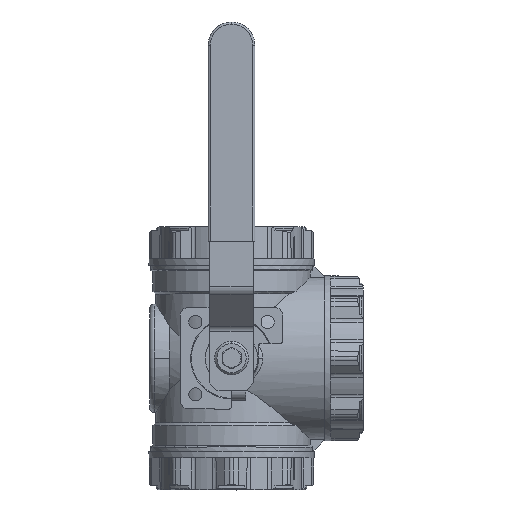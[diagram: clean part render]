
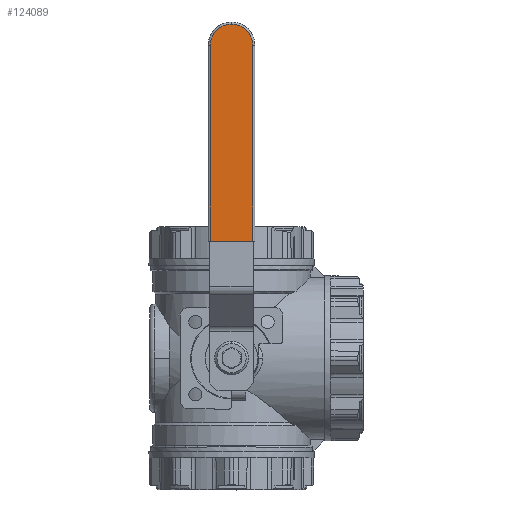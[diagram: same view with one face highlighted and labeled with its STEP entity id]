
A CAD part, top view. The second image highlights one B-rep face of the part: STEP entity #124089.
In plain terms, the highlighted planar face has unit normal (0, 0, 1).
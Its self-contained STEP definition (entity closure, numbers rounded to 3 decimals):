
#121847 = PLANE('',#121848);
#121848 = AXIS2_PLACEMENT_3D('',#121849,#121850,#121851);
#121849 = CARTESIAN_POINT('',(16.,170.,205.));
#121850 = DIRECTION('',(0.,-1.,0.));
#121851 = DIRECTION('',(-1.,0.,0.));
#121875 = CYLINDRICAL_SURFACE('',#121876,1.5);
#121876 = AXIS2_PLACEMENT_3D('',#121877,#121878,#121879);
#121877 = CARTESIAN_POINT('',(-14.5,90.,210.5));
#121878 = DIRECTION('',(0.,-1.,0.));
#121879 = DIRECTION('',(-1.,0.,0.));
#121985 = TOROIDAL_SURFACE('',#121986,14.4,1.5);
#121986 = AXIS2_PLACEMENT_3D('',#121987,#121988,#121989);
#121987 = CARTESIAN_POINT('',(-0.1,304.095,210.5));
#121988 = DIRECTION('',(0.,0.,1.));
#121989 = DIRECTION('',(0.,1.,0.));
#122077 = CYLINDRICAL_SURFACE('',#122078,1.5);
#122078 = AXIS2_PLACEMENT_3D('',#122079,#122080,#122081);
#122079 = CARTESIAN_POINT('',(14.5,90.,210.5));
#122080 = DIRECTION('',(0.,1.,0.));
#122081 = DIRECTION('',(1.,0.,0.));
#122423 = VERTEX_POINT('',#122424);
#122424 = CARTESIAN_POINT('',(-14.5,304.095,212.));
#122446 = EDGE_CURVE('',#122447,#122423,#122449,.T.);
#122447 = VERTEX_POINT('',#122448);
#122448 = CARTESIAN_POINT('',(-0.1,318.495,212.));
#122449 = SURFACE_CURVE('',#122450,(#122455,#122462),.PCURVE_S1.);
#122450 = CIRCLE('',#122451,14.4);
#122451 = AXIS2_PLACEMENT_3D('',#122452,#122453,#122454);
#122452 = CARTESIAN_POINT('',(-0.1,304.095,212.));
#122453 = DIRECTION('',(0.,0.,1.));
#122454 = DIRECTION('',(0.,1.,0.));
#122455 = PCURVE('',#121985,#122456);
#122456 = DEFINITIONAL_REPRESENTATION('',(#122457),#122461);
#122457 = LINE('',#122458,#122459);
#122458 = CARTESIAN_POINT('',(0.,1.571));
#122459 = VECTOR('',#122460,1.);
#122460 = DIRECTION('',(1.,0.));
#122461 = ( GEOMETRIC_REPRESENTATION_CONTEXT(2) 
PARAMETRIC_REPRESENTATION_CONTEXT() REPRESENTATION_CONTEXT('2D SPACE',''
  ) );
#122462 = PCURVE('',#122463,#122468);
#122463 = PLANE('',#122464);
#122464 = AXIS2_PLACEMENT_3D('',#122465,#122466,#122467);
#122465 = CARTESIAN_POINT('',(0.,90.,
    212.));
#122466 = DIRECTION('',(0.,0.,1.));
#122467 = DIRECTION('',(0.,1.,0.));
#122468 = DEFINITIONAL_REPRESENTATION('',(#122469),#122473);
#122469 = CIRCLE('',#122470,14.4);
#122470 = AXIS2_PLACEMENT_2D('',#122471,#122472);
#122471 = CARTESIAN_POINT('',(214.095,0.1));
#122472 = DIRECTION('',(1.,0.));
#122473 = ( GEOMETRIC_REPRESENTATION_CONTEXT(2) 
PARAMETRIC_REPRESENTATION_CONTEXT() REPRESENTATION_CONTEXT('2D SPACE',''
  ) );
#122490 = CYLINDRICAL_SURFACE('',#122491,1.5);
#122491 = AXIS2_PLACEMENT_3D('',#122492,#122493,#122494);
#122492 = CARTESIAN_POINT('',(0.,318.495,
    210.5));
#122493 = DIRECTION('',(-1.,0.,0.));
#122494 = DIRECTION('',(0.,1.,0.));
#123499 = VERTEX_POINT('',#123500);
#123500 = CARTESIAN_POINT('',(0.1,318.495,
    212.));
#123517 = TOROIDAL_SURFACE('',#123518,14.4,1.5);
#123518 = AXIS2_PLACEMENT_3D('',#123519,#123520,#123521);
#123519 = CARTESIAN_POINT('',(0.1,304.095,
    210.5));
#123520 = DIRECTION('',(0.,0.,1.));
#123521 = DIRECTION('',(0.,1.,0.));
#123551 = EDGE_CURVE('',#123499,#122447,#123552,.T.);
#123552 = SURFACE_CURVE('',#123553,(#123557,#123564),.PCURVE_S1.);
#123553 = LINE('',#123554,#123555);
#123554 = CARTESIAN_POINT('',(0.,318.495,
    212.));
#123555 = VECTOR('',#123556,1.);
#123556 = DIRECTION('',(-1.,0.,0.));
#123557 = PCURVE('',#122490,#123558);
#123558 = DEFINITIONAL_REPRESENTATION('',(#123559),#123563);
#123559 = LINE('',#123560,#123561);
#123560 = CARTESIAN_POINT('',(4.712,0.));
#123561 = VECTOR('',#123562,1.);
#123562 = DIRECTION('',(0.,1.));
#123563 = ( GEOMETRIC_REPRESENTATION_CONTEXT(2) 
PARAMETRIC_REPRESENTATION_CONTEXT() REPRESENTATION_CONTEXT('2D SPACE',''
  ) );
#123564 = PCURVE('',#122463,#123565);
#123565 = DEFINITIONAL_REPRESENTATION('',(#123566),#123570);
#123566 = LINE('',#123567,#123568);
#123567 = CARTESIAN_POINT('',(228.495,0.));
#123568 = VECTOR('',#123569,1.);
#123569 = DIRECTION('',(0.,1.));
#123570 = ( GEOMETRIC_REPRESENTATION_CONTEXT(2) 
PARAMETRIC_REPRESENTATION_CONTEXT() REPRESENTATION_CONTEXT('2D SPACE',''
  ) );
#123575 = EDGE_CURVE('',#123576,#123578,#123580,.T.);
#123576 = VERTEX_POINT('',#123577);
#123577 = CARTESIAN_POINT('',(14.5,170.,212.));
#123578 = VERTEX_POINT('',#123579);
#123579 = CARTESIAN_POINT('',(14.5,304.095,212.));
#123580 = SURFACE_CURVE('',#123581,(#123585,#123592),.PCURVE_S1.);
#123581 = LINE('',#123582,#123583);
#123582 = CARTESIAN_POINT('',(14.5,90.,212.));
#123583 = VECTOR('',#123584,1.);
#123584 = DIRECTION('',(0.,1.,0.));
#123585 = PCURVE('',#122077,#123586);
#123586 = DEFINITIONAL_REPRESENTATION('',(#123587),#123591);
#123587 = LINE('',#123588,#123589);
#123588 = CARTESIAN_POINT('',(4.712,0.));
#123589 = VECTOR('',#123590,1.);
#123590 = DIRECTION('',(0.,1.));
#123591 = ( GEOMETRIC_REPRESENTATION_CONTEXT(2) 
PARAMETRIC_REPRESENTATION_CONTEXT() REPRESENTATION_CONTEXT('2D SPACE',''
  ) );
#123592 = PCURVE('',#122463,#123593);
#123593 = DEFINITIONAL_REPRESENTATION('',(#123594),#123598);
#123594 = LINE('',#123595,#123596);
#123595 = CARTESIAN_POINT('',(0.,-14.5));
#123596 = VECTOR('',#123597,1.);
#123597 = DIRECTION('',(1.,0.));
#123598 = ( GEOMETRIC_REPRESENTATION_CONTEXT(2) 
PARAMETRIC_REPRESENTATION_CONTEXT() REPRESENTATION_CONTEXT('2D SPACE',''
  ) );
#123655 = VERTEX_POINT('',#123656);
#123656 = CARTESIAN_POINT('',(-14.5,170.,212.));
#123678 = EDGE_CURVE('',#122423,#123655,#123679,.T.);
#123679 = SURFACE_CURVE('',#123680,(#123684,#123691),.PCURVE_S1.);
#123680 = LINE('',#123681,#123682);
#123681 = CARTESIAN_POINT('',(-14.5,90.,212.));
#123682 = VECTOR('',#123683,1.);
#123683 = DIRECTION('',(0.,-1.,0.));
#123684 = PCURVE('',#121875,#123685);
#123685 = DEFINITIONAL_REPRESENTATION('',(#123686),#123690);
#123686 = LINE('',#123687,#123688);
#123687 = CARTESIAN_POINT('',(4.712,0.));
#123688 = VECTOR('',#123689,1.);
#123689 = DIRECTION('',(0.,1.));
#123690 = ( GEOMETRIC_REPRESENTATION_CONTEXT(2) 
PARAMETRIC_REPRESENTATION_CONTEXT() REPRESENTATION_CONTEXT('2D SPACE',''
  ) );
#123691 = PCURVE('',#122463,#123692);
#123692 = DEFINITIONAL_REPRESENTATION('',(#123693),#123697);
#123693 = LINE('',#123694,#123695);
#123694 = CARTESIAN_POINT('',(0.,14.5));
#123695 = VECTOR('',#123696,1.);
#123696 = DIRECTION('',(-1.,0.));
#123697 = ( GEOMETRIC_REPRESENTATION_CONTEXT(2) 
PARAMETRIC_REPRESENTATION_CONTEXT() REPRESENTATION_CONTEXT('2D SPACE',''
  ) );
#123939 = EDGE_CURVE('',#123578,#123499,#123940,.T.);
#123940 = SURFACE_CURVE('',#123941,(#123946,#123953),.PCURVE_S1.);
#123941 = CIRCLE('',#123942,14.4);
#123942 = AXIS2_PLACEMENT_3D('',#123943,#123944,#123945);
#123943 = CARTESIAN_POINT('',(0.1,304.095,
    212.));
#123944 = DIRECTION('',(0.,0.,1.));
#123945 = DIRECTION('',(0.,1.,0.));
#123946 = PCURVE('',#123517,#123947);
#123947 = DEFINITIONAL_REPRESENTATION('',(#123948),#123952);
#123948 = LINE('',#123949,#123950);
#123949 = CARTESIAN_POINT('',(0.,1.571));
#123950 = VECTOR('',#123951,1.);
#123951 = DIRECTION('',(1.,0.));
#123952 = ( GEOMETRIC_REPRESENTATION_CONTEXT(2) 
PARAMETRIC_REPRESENTATION_CONTEXT() REPRESENTATION_CONTEXT('2D SPACE',''
  ) );
#123953 = PCURVE('',#122463,#123954);
#123954 = DEFINITIONAL_REPRESENTATION('',(#123955),#123959);
#123955 = CIRCLE('',#123956,14.4);
#123956 = AXIS2_PLACEMENT_2D('',#123957,#123958);
#123957 = CARTESIAN_POINT('',(214.095,-0.1));
#123958 = DIRECTION('',(1.,0.));
#123959 = ( GEOMETRIC_REPRESENTATION_CONTEXT(2) 
PARAMETRIC_REPRESENTATION_CONTEXT() REPRESENTATION_CONTEXT('2D SPACE',''
  ) );
#124089 = ADVANCED_FACE('',(#124090),#122463,.T.);
#124090 = FACE_BOUND('',#124091,.T.);
#124091 = EDGE_LOOP('',(#124092,#124093,#124114,#124115,#124116,#124117)
  );
#124092 = ORIENTED_EDGE('',*,*,#123678,.T.);
#124093 = ORIENTED_EDGE('',*,*,#124094,.T.);
#124094 = EDGE_CURVE('',#123655,#123576,#124095,.T.);
#124095 = SURFACE_CURVE('',#124096,(#124100,#124107),.PCURVE_S1.);
#124096 = LINE('',#124097,#124098);
#124097 = CARTESIAN_POINT('',(0.,170.,
    212.));
#124098 = VECTOR('',#124099,1.);
#124099 = DIRECTION('',(1.,0.,0.));
#124100 = PCURVE('',#122463,#124101);
#124101 = DEFINITIONAL_REPRESENTATION('',(#124102),#124106);
#124102 = LINE('',#124103,#124104);
#124103 = CARTESIAN_POINT('',(80.,0.));
#124104 = VECTOR('',#124105,1.);
#124105 = DIRECTION('',(0.,-1.));
#124106 = ( GEOMETRIC_REPRESENTATION_CONTEXT(2) 
PARAMETRIC_REPRESENTATION_CONTEXT() REPRESENTATION_CONTEXT('2D SPACE',''
  ) );
#124107 = PCURVE('',#121847,#124108);
#124108 = DEFINITIONAL_REPRESENTATION('',(#124109),#124113);
#124109 = LINE('',#124110,#124111);
#124110 = CARTESIAN_POINT('',(16.,-7.));
#124111 = VECTOR('',#124112,1.);
#124112 = DIRECTION('',(-1.,0.));
#124113 = ( GEOMETRIC_REPRESENTATION_CONTEXT(2) 
PARAMETRIC_REPRESENTATION_CONTEXT() REPRESENTATION_CONTEXT('2D SPACE',''
  ) );
#124114 = ORIENTED_EDGE('',*,*,#123575,.T.);
#124115 = ORIENTED_EDGE('',*,*,#123939,.T.);
#124116 = ORIENTED_EDGE('',*,*,#123551,.T.);
#124117 = ORIENTED_EDGE('',*,*,#122446,.T.);
